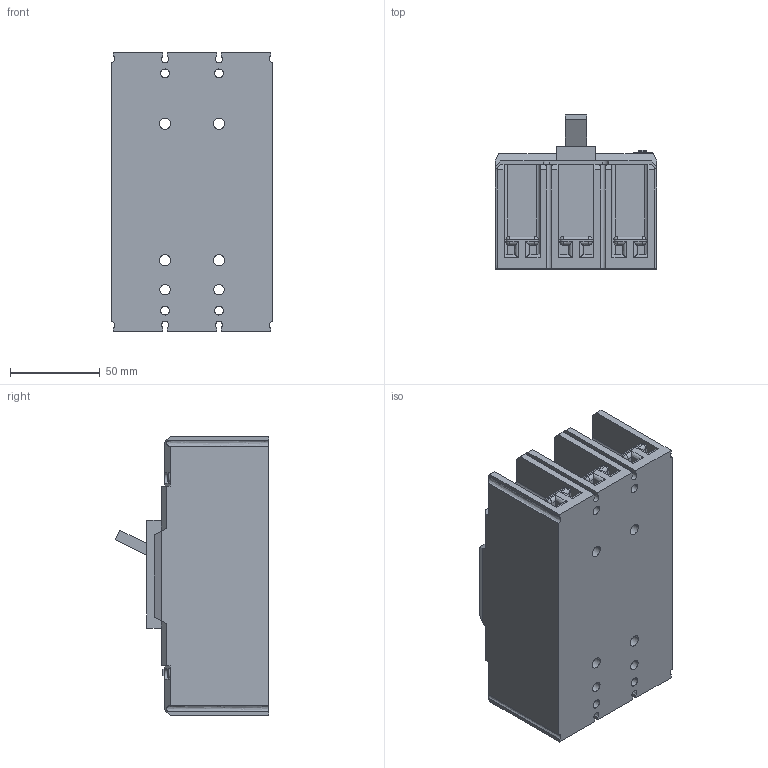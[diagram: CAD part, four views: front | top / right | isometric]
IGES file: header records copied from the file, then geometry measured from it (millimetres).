
Start section:  PTC IGES file: 19-metasol-mccb-125af-3p.igs
Global section: file name: 19-metasol-mccb-125af-3p.igs; native system: Pro/ENGINEER by Parametric Technology Corporation; preprocessor: 2010280; author: mgkimb; organization: Unknown; date: 20131029.143303; units: millimetre
Bounding box: 90 x 85.7 x 155 mm (x, y, z)
Surface area: 90416.6 mm2 (no closed solid volume)
Topology: 0 solids, 0 shells, 790 faces, 4128 edges, 4128 vertices
Faces by surface type: bspline 517, revolution 273
